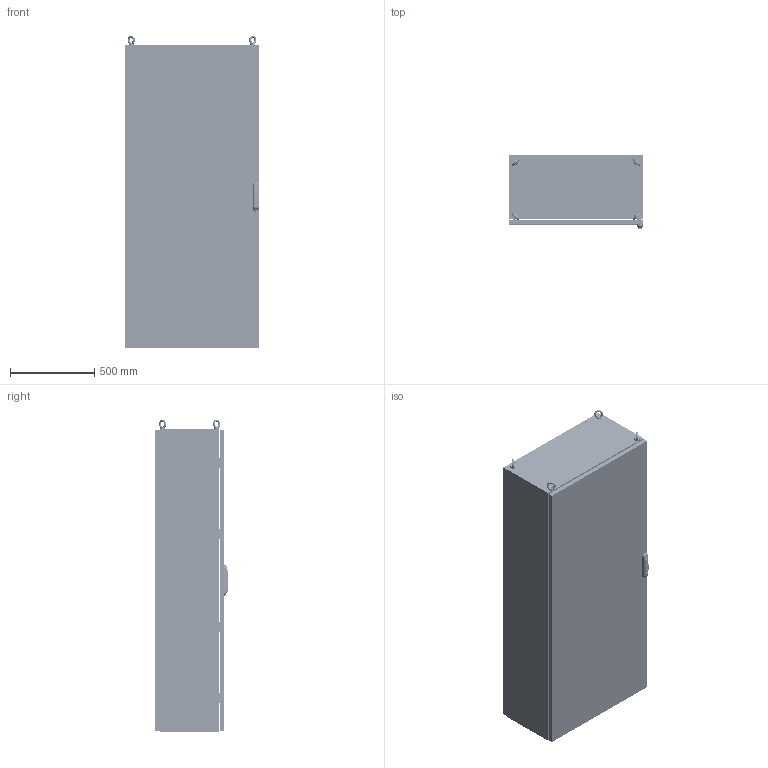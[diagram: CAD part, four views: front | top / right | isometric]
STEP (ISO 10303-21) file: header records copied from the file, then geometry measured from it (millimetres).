
FILE_DESCRIPTION(/* description */ ('Unknown'),/* implementation_level */ '2;1');
FILE_NAME(/* name */ 'FCA08018040',/* time_stamp */ '2024-12-11T15:44:16+01:00',/* author */ ('Unknown'),/* organization */ ('Unknown'),/* preprocessor_version */ 'ST-DEVELOPER v19.4',/* originating_system */ 'Solid Edge',/* authorisation */ 'Unknown');
FILE_SCHEMA (('CONFIG_CONTROL_DESIGN'));
Length unit declared in the file: millimetre
Products named in the file (60): FCA08018040; F000X000.99; F0000000.85; F000X001.01; F0000000.84; F0000000.55; F0000000.02; F000X001.00; F0000000.83; AE00500.10; AE00715.01; AE00219.03; F000X000.92; F000X000.93; F0000000.80; F0000000.07; AE00100.03_oa_0; AE00100.03_oa_1; AE00100.03_oa_2; AE00100.03_oa_3; F000X000.12_oa_4; F000X000.17_oa_5; F0000000.20; 38790003.14_oa_6; F000X000.18; F0000000.21; 38790003.14_oa_7; F000X000.19_oa_8; AE00217.25; AE00309.01; F000X000.20_oa_9; AE00368.00; AE00219.00; AE00224.00; AE00198.03; M0000000.37; F0000001.24; AE00701.03; F0000000.13; F0000000.08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
Assembly tree (209 placements, depth 5):
  FCA08018040
    F000X000.99
      F0000000.85  x2
      F000X001.01
        F0000000.84
        F0000000.55  x2
        F0000000.02  x4
      F000X001.00
        F0000000.83
        F0000000.55  x2
        F0000000.02  x4
      AE00500.10  x32
    AE00715.01  x4
    AE00219.03  x8
    F000X000.92
      F000X000.93
        F0000000.80
      F0000000.07  x2
      AE00100.03_oa_0
      AE00100.03_oa_1
      AE00100.03_oa_2
      AE00100.03_oa_3
    F000X000.12_oa_4
      F000X000.17_oa_5
        F0000000.20
        38790003.14_oa_6
      F000X000.18
        F0000000.21
        38790003.14_oa_7
      F000X000.19_oa_8
        F0000000.21
        AE00217.25
        AE00309.01
      F000X000.20_oa_9
        F0000000.20
        AE00217.25
        AE00309.01
      AE00368.00  x8
      AE00219.00  x8
      AE00224.00  x2
    AE00198.03  x16
    M0000000.37  x8
    F0000001.24  x4
    AE00701.03  x4
    F0000000.13  x4
    F0000000.08  x4
    F000X000.94
      F000X000.95
        F000X000.96
          F0000000.81
        F000X000.71
          F0000002.21  x2
          F0000002.17  x2
          AE01400.01  x4
        AE00413.05  x4
        AE00417.01  x2
      F0000000.12  x8
      AE00222.15  x8
      AE00316.01  x8
      AE00992.10_oa_10
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Bounding box: 800 x 438.2 x 1857.41 mm (x, y, z)
Volume: 14465395.9 mm3; surface area: 11951178.4 mm2
Topology: 214 solids, 214 shells, 5973 faces, 15638 edges, 10113 vertices
Faces by surface type: plane 3638, cylinder 1661, cone 446, sphere 136, torus 78, bspline 14
Full cylindrical faces by diameter (mm): 2 x4, 3 x1, 3.242 x2, 4 x12, 4.134 x5, 4.25 x182, 4.5 x164, 4.917 x57, 4.918 x8, 5 x6, 6 x66, 6.1 x20, 6.2 x8, 6.5 x28, 6.647 x4, 7.5 x2, 7.8 x2, 8 x8, 8.25 x4, 8.3 x8, 8.5 x2, 9 x32, 10 x2, 10.106 x8, 10.5 x24, 11.8 x8, 12 x24, 14 x1, 16 x1, 17 x3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
Entity records: 51096 total; most frequent: CARTESIAN_POINT 8889, DIRECTION 7873, ORIENTED_EDGE 7306, EDGE_CURVE 3653, AXIS2_PLACEMENT_3D 2663, VERTEX_POINT 2557, LINE 2547, VECTOR 2547
